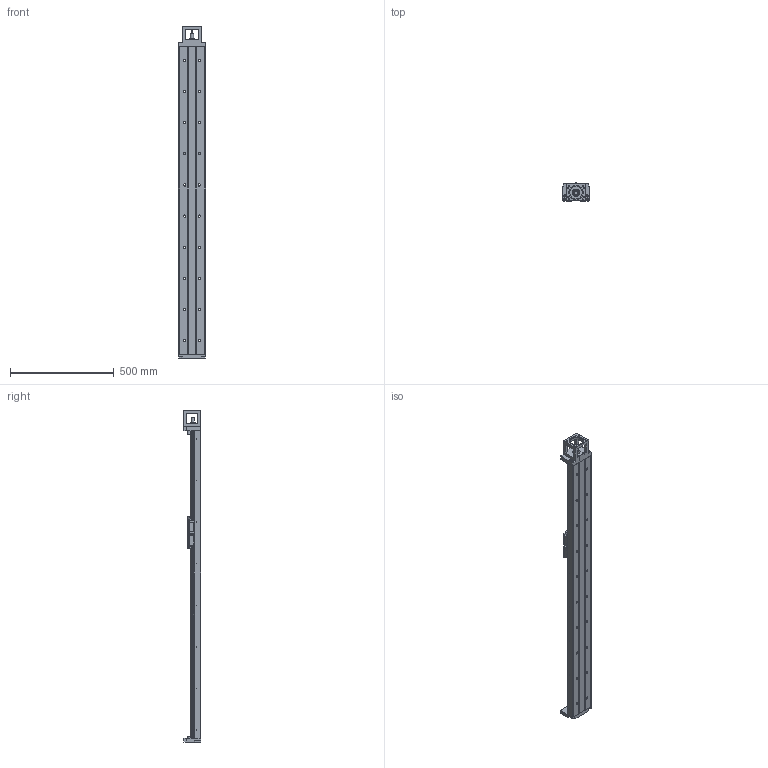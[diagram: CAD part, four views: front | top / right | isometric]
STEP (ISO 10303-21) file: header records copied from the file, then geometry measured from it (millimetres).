
FILE_DESCRIPTION(/* description */ (''),/* implementation_level */ '2;1');
FILE_NAME(/* name */ 'TKK130-1480A1F0.stp',/* time_stamp */ '2016-12-22T09:52:09+08:00',/* author */ (''),/* organization */ (''),/* preprocessor_version */ 'ST-DEVELOPER v15',/* originating_system */ 'SIEMENS PLM Software NX 8.5',/* authorisation */ '');
FILE_SCHEMA (('AUTOMOTIVE_DESIGN { 1 0 10303 214 3 1 1 1 }'));
Length unit declared in the file: millimetre
Products named in the file (3): 02; 01; TKK130-1480A1F0
Assembly tree (2 placements, depth 2):
  TKK130-1480A1F0
    01
    02
Bounding box: 130 x 85 x 1598 mm (x, y, z)
Volume: 5882939 mm3; surface area: 953464.2 mm2
Topology: 2 solids, 35 shells, 1010 faces, 2698 edges, 1766 vertices
Faces by surface type: plane 557, cylinder 297, cone 116, extrusion 33, bspline 6, torus 1
Full cylindrical faces by diameter (mm): 2.1 x16, 2.5 x4, 3.3 x53, 4.5 x16, 5 x23, 6.6 x10, 6.8 x8, 7 x2, 8 x8, 8.5 x4, 9 x8, 11 x24, 12 x4, 15 x1, 16.3 x1, 17 x22, 25 x1, 35 x2, 40 x3, 60.03 x1, 70.03 x1
Entity records: 30193 total; most frequent: CARTESIAN_POINT 6629, DIRECTION 4548, ORIENTED_EDGE 4222, EDGE_CURVE 2111, AXIS2_PLACEMENT_3D 1630, VERTEX_POINT 1599, EDGE_LOOP 1445, VECTOR 1288
